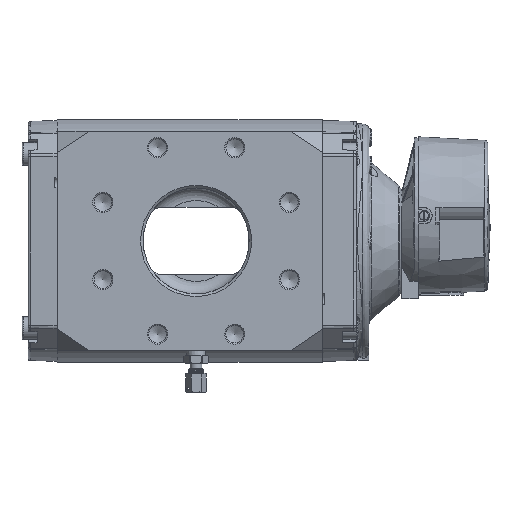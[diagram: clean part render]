
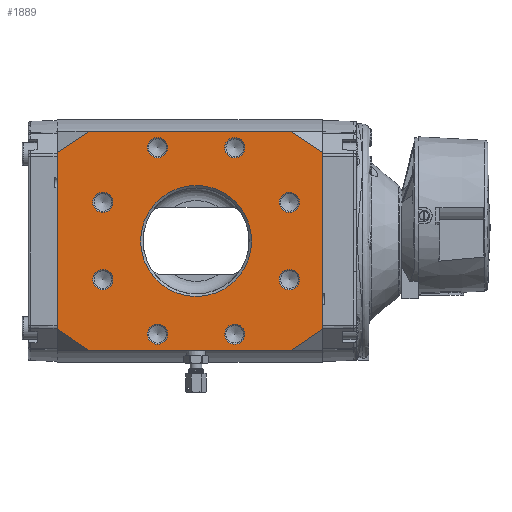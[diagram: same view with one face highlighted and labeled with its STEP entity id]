
A CAD part, left-side view. The second image highlights one B-rep face of the part: STEP entity #1889.
In plain terms, the highlighted planar face has unit normal (-1, 0, 0).
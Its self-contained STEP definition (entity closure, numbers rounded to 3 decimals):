
#1889=ADVANCED_FACE('',(#15637,#15639,#15641,#15643,#15645,#15647,#15649,#15651,
#15653,#15655),#15657,.T.);
#15637=FACE_BOUND('',#15638,.T.);
#15638=EDGE_LOOP('',(#38324,#38325,#38326,#38327,#38328,#38329,#38330,#38331));
#15639=FACE_BOUND('',#15640,.T.);
#15640=EDGE_LOOP('',(#38332));
#15641=FACE_BOUND('',#15642,.T.);
#15642=EDGE_LOOP('',(#38333));
#15643=FACE_BOUND('',#15644,.T.);
#15644=EDGE_LOOP('',(#38334));
#15645=FACE_BOUND('',#15646,.T.);
#15646=EDGE_LOOP('',(#38335));
#15647=FACE_BOUND('',#15648,.T.);
#15648=EDGE_LOOP('',(#38336));
#15649=FACE_BOUND('',#15650,.T.);
#15650=EDGE_LOOP('',(#38337));
#15651=FACE_BOUND('',#15652,.T.);
#15652=EDGE_LOOP('',(#38338));
#15653=FACE_BOUND('',#15654,.T.);
#15654=EDGE_LOOP('',(#38339));
#15655=FACE_BOUND('',#15656,.T.);
#15656=EDGE_LOOP('',(#38340));
#15657=PLANE('',#15658);
#15658=AXIS2_PLACEMENT_3D('',#15659,#15660,#15661);
#15659=CARTESIAN_POINT('',(-85.5,0.,-87.));
#15660=DIRECTION('',(-1.,0.,0.));
#15661=DIRECTION('',(0.,0.,1.));
#38324=ORIENTED_EDGE('',*,*,#45016,.T.);
#38325=ORIENTED_EDGE('',*,*,#44814,.F.);
#38326=ORIENTED_EDGE('',*,*,#45017,.T.);
#38327=ORIENTED_EDGE('',*,*,#45018,.F.);
#38328=ORIENTED_EDGE('',*,*,#45019,.T.);
#38329=ORIENTED_EDGE('',*,*,#44681,.T.);
#38330=ORIENTED_EDGE('',*,*,#45003,.T.);
#38331=ORIENTED_EDGE('',*,*,#45020,.T.);
#38332=ORIENTED_EDGE('',*,*,#45021,.T.);
#38333=ORIENTED_EDGE('',*,*,#45022,.T.);
#38334=ORIENTED_EDGE('',*,*,#45023,.T.);
#38335=ORIENTED_EDGE('',*,*,#45024,.T.);
#38336=ORIENTED_EDGE('',*,*,#45025,.T.);
#38337=ORIENTED_EDGE('',*,*,#45026,.T.);
#38338=ORIENTED_EDGE('',*,*,#45027,.T.);
#38339=ORIENTED_EDGE('',*,*,#45028,.T.);
#38340=ORIENTED_EDGE('',*,*,#45029,.T.);
#44681=EDGE_CURVE('',#48538,#48536,#48539,.T.);
#44814=EDGE_CURVE('',#48798,#48800,#48801,.T.);
#45003=EDGE_CURVE('',#48536,#49085,#49086,.T.);
#45016=EDGE_CURVE('',#49110,#48800,#49111,.T.);
#45017=EDGE_CURVE('',#48798,#49112,#49113,.T.);
#45018=EDGE_CURVE('',#49114,#49112,#49115,.T.);
#45019=EDGE_CURVE('',#49114,#48538,#49116,.T.);
#45020=EDGE_CURVE('',#49085,#49110,#49117,.T.);
#45021=EDGE_CURVE('',#49118,#49118,#49119,.T.);
#45022=EDGE_CURVE('',#49120,#49120,#49121,.T.);
#45023=EDGE_CURVE('',#49122,#49122,#49123,.T.);
#45024=EDGE_CURVE('',#49124,#49124,#49125,.T.);
#45025=EDGE_CURVE('',#49126,#49126,#49127,.F.);
#45026=EDGE_CURVE('',#49128,#49128,#49129,.T.);
#45027=EDGE_CURVE('',#49130,#49130,#49131,.T.);
#45028=EDGE_CURVE('',#49132,#49132,#49133,.T.);
#45029=EDGE_CURVE('',#49134,#49134,#49135,.T.);
#48536=VERTEX_POINT('',#56994);
#48538=VERTEX_POINT('',#56998);
#48539=LINE('',#56999,#57000);
#48798=VERTEX_POINT('',#57638);
#48800=VERTEX_POINT('',#57642);
#48801=LINE('',#57643,#57644);
#49085=VERTEX_POINT('',#58448);
#49086=LINE('',#58449,#58450);
#49110=VERTEX_POINT('',#58510);
#49111=LINE('',#58511,#58512);
#49112=VERTEX_POINT('',#58514);
#49113=LINE('',#58515,#58516);
#49114=VERTEX_POINT('',#58518);
#49115=LINE('',#58519,#58520);
#49116=LINE('',#58522,#58523);
#49117=LINE('',#58525,#58526);
#49118=VERTEX_POINT('',#58528);
#49119=CIRCLE('',#58529,8.);
#49120=VERTEX_POINT('',#58533);
#49121=CIRCLE('',#58534,8.);
#49122=VERTEX_POINT('',#58538);
#49123=CIRCLE('',#58539,8.);
#49124=VERTEX_POINT('',#58543);
#49125=CIRCLE('',#58544,8.);
#49126=VERTEX_POINT('',#58548);
#49127=CIRCLE('',#58549,44.);
#49128=VERTEX_POINT('',#58553);
#49129=CIRCLE('',#58554,8.);
#49130=VERTEX_POINT('',#58558);
#49131=CIRCLE('',#58559,8.);
#49132=VERTEX_POINT('',#58563);
#49133=CIRCLE('',#58564,8.);
#49134=VERTEX_POINT('',#58568);
#49135=CIRCLE('',#58569,8.);
#56994=CARTESIAN_POINT('',(-85.5,0.,70.));
#56998=CARTESIAN_POINT('',(-85.5,0.,-70.));
#56999=CARTESIAN_POINT('',(-85.5,0.,-70.));
#57000=VECTOR('',#57001,1.);
#57001=DIRECTION('',(0.,0.,1.));
#57638=CARTESIAN_POINT('',(-85.5,210.,-70.));
#57642=CARTESIAN_POINT('',(-85.5,210.,70.));
#57643=CARTESIAN_POINT('',(-85.5,210.,-70.));
#57644=VECTOR('',#57645,1.);
#57645=DIRECTION('',(0.,0.,1.));
#58448=CARTESIAN_POINT('',(-85.5,25.488,87.));
#58449=CARTESIAN_POINT('',(-85.5,0.,70.));
#58450=VECTOR('',#58451,1.);
#58451=DIRECTION('',(0.,0.832,0.555));
#58510=CARTESIAN_POINT('',(-85.5,184.512,87.));
#58511=CARTESIAN_POINT('',(-85.5,184.512,87.));
#58512=VECTOR('',#58513,1.);
#58513=DIRECTION('',(0.,0.832,-0.555));
#58514=CARTESIAN_POINT('',(-85.5,184.512,-87.));
#58515=CARTESIAN_POINT('',(-85.5,210.,-70.));
#58516=VECTOR('',#58517,1.);
#58517=DIRECTION('',(0.,-0.832,-0.555));
#58518=CARTESIAN_POINT('',(-85.5,25.488,-87.));
#58519=CARTESIAN_POINT('',(-85.5,25.488,-87.));
#58520=VECTOR('',#58521,1.);
#58521=DIRECTION('',(0.,1.,0.));
#58522=CARTESIAN_POINT('',(-85.5,25.488,-87.));
#58523=VECTOR('',#58524,1.);
#58524=DIRECTION('',(0.,-0.832,0.555));
#58525=CARTESIAN_POINT('',(-85.5,25.488,87.));
#58526=VECTOR('',#58527,1.);
#58527=DIRECTION('',(0.,1.,0.));
#58528=CARTESIAN_POINT('',(-85.5,75.039,-79.55));
#58529=AXIS2_PLACEMENT_3D('',#58530,#58531,#58532);
#58530=CARTESIAN_POINT('',(-85.5,69.382,-73.893));
#58531=DIRECTION('',(1.,0.,0.));
#58532=DIRECTION('',(0.,0.707,-0.707));
#58533=CARTESIAN_POINT('',(-85.5,179.55,-24.961));
#58534=AXIS2_PLACEMENT_3D('',#58535,#58536,#58537);
#58535=CARTESIAN_POINT('',(-85.5,173.893,-30.618));
#58536=DIRECTION('',(1.,0.,0.));
#58537=DIRECTION('',(0.,0.707,0.707));
#58538=CARTESIAN_POINT('',(-85.5,124.961,79.55));
#58539=AXIS2_PLACEMENT_3D('',#58540,#58541,#58542);
#58540=CARTESIAN_POINT('',(-85.5,130.618,73.893));
#58541=DIRECTION('',(1.,0.,0.));
#58542=DIRECTION('',(0.,-0.707,0.707));
#58543=CARTESIAN_POINT('',(-85.5,20.45,24.961));
#58544=AXIS2_PLACEMENT_3D('',#58545,#58546,#58547);
#58545=CARTESIAN_POINT('',(-85.5,26.107,30.618));
#58546=DIRECTION('',(1.,0.,0.));
#58547=DIRECTION('',(0.,-0.707,-0.707));
#58548=CARTESIAN_POINT('',(-85.5,100.,44.));
#58549=AXIS2_PLACEMENT_3D('',#58550,#58551,#58552);
#58550=CARTESIAN_POINT('',(-85.5,100.,0.));
#58551=DIRECTION('',(-1.,0.,0.));
#58552=DIRECTION('',(0.,0.,1.));
#58553=CARTESIAN_POINT('',(-85.5,26.1,-38.6));
#58554=AXIS2_PLACEMENT_3D('',#58555,#58556,#58557);
#58555=CARTESIAN_POINT('',(-85.5,26.1,-30.6));
#58556=DIRECTION('',(1.,0.,0.));
#58557=DIRECTION('',(0.,0.,-1.));
#58558=CARTESIAN_POINT('',(-85.5,61.4,73.9));
#58559=AXIS2_PLACEMENT_3D('',#58560,#58561,#58562);
#58560=CARTESIAN_POINT('',(-85.5,69.4,73.9));
#58561=DIRECTION('',(1.,0.,0.));
#58562=DIRECTION('',(0.,-1.,0.));
#58563=CARTESIAN_POINT('',(-85.5,173.9,38.6));
#58564=AXIS2_PLACEMENT_3D('',#58565,#58566,#58567);
#58565=CARTESIAN_POINT('',(-85.5,173.9,30.6));
#58566=DIRECTION('',(1.,0.,0.));
#58567=DIRECTION('',(0.,0.,1.));
#58568=CARTESIAN_POINT('',(-85.5,138.6,-73.9));
#58569=AXIS2_PLACEMENT_3D('',#58570,#58571,#58572);
#58570=CARTESIAN_POINT('',(-85.5,130.6,-73.9));
#58571=DIRECTION('',(1.,0.,0.));
#58572=DIRECTION('',(0.,1.,0.));
